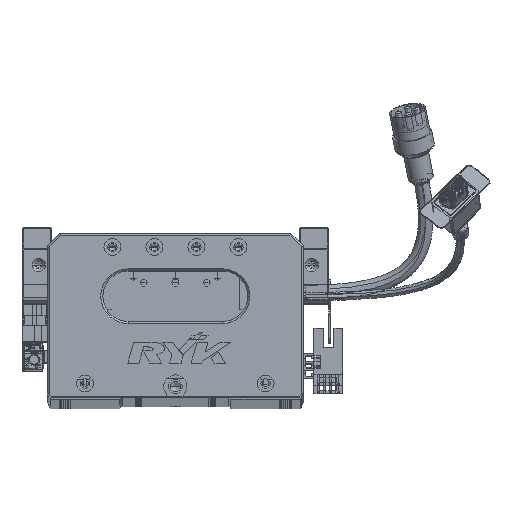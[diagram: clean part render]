
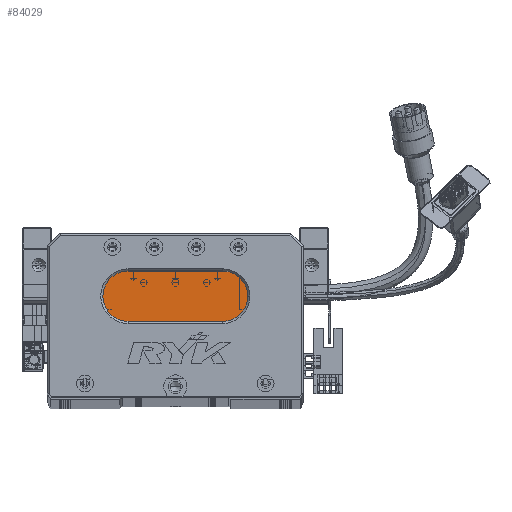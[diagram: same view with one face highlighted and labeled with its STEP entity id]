
A CAD part, top view. The second image highlights one B-rep face of the part: STEP entity #84029.
In plain terms, the highlighted planar face has unit normal (0, 0, 1) as drawn and (0, 0, -1) by its records, which use the part's own axes.
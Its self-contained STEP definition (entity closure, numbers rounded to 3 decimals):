
#5554 = DIRECTION ( 'NONE',  ( 0., 0., -1. ) ) ;
#9522 = CIRCLE ( 'NONE', #95653, 12. ) ;
#12624 = FACE_OUTER_BOUND ( 'NONE', #100102, .T. ) ;
#13292 = VERTEX_POINT ( 'NONE', #101647 ) ;
#13939 = CARTESIAN_POINT ( 'NONE',  ( 83.5, 60., 13. ) ) ;
#17297 = EDGE_CURVE ( 'NONE', #74197, #92590, #9522, .T. ) ;
#19933 = EDGE_CURVE ( 'NONE', #111495, #74197, #77395, .T. ) ;
#21264 = AXIS2_PLACEMENT_3D ( 'NONE', #80389, #5554, #23537 ) ;
#22996 = VERTEX_POINT ( 'NONE', #66857 ) ;
#23537 = DIRECTION ( 'NONE',  ( -1., 0., 0. ) ) ;
#23882 = AXIS2_PLACEMENT_3D ( 'NONE', #116215, #87593, #31541 ) ;
#24248 = ORIENTED_EDGE ( 'NONE', *, *, #19933, .T. ) ;
#24488 = CIRCLE ( 'NONE', #21264, 12. ) ;
#31541 = DIRECTION ( 'NONE',  ( -1., 0., 0. ) ) ;
#34505 = ORIENTED_EDGE ( 'NONE', *, *, #17297, .T. ) ;
#41370 = PLANE ( 'NONE',  #23882 ) ;
#44886 = CARTESIAN_POINT ( 'NONE',  ( 83.5, 36., 13. ) ) ;
#46243 = CARTESIAN_POINT ( 'NONE',  ( 38.5, 60., 13. ) ) ;
#52462 = VECTOR ( 'NONE', #98191, 1000. ) ;
#63863 = CARTESIAN_POINT ( 'NONE',  ( 83.5, 48., 13. ) ) ;
#65376 = ORIENTED_EDGE ( 'NONE', *, *, #120005, .T. ) ;
#66857 = CARTESIAN_POINT ( 'NONE',  ( 26.5, 48., 13. ) ) ;
#67819 = LINE ( 'NONE', #93350, #114577 ) ;
#72150 = DIRECTION ( 'NONE',  ( 0., 0., -1. ) ) ;
#73796 = DIRECTION ( 'NONE',  ( -1., 0., 0. ) ) ;
#74197 = VERTEX_POINT ( 'NONE', #77536 ) ;
#77395 = LINE ( 'NONE', #13939, #52462 ) ;
#77536 = CARTESIAN_POINT ( 'NONE',  ( 83.5, 60., 13. ) ) ;
#80389 = CARTESIAN_POINT ( 'NONE',  ( 38.5, 48., 13. ) ) ;
#83989 = ORIENTED_EDGE ( 'NONE', *, *, #120334, .T. ) ;
#84029 = ADVANCED_FACE ( 'NONE', ( #12624 ), #41370, .T. ) ;
#87593 = DIRECTION ( 'NONE',  ( 0., 0., -1. ) ) ;
#89756 = ORIENTED_EDGE ( 'NONE', *, *, #92896, .T. ) ;
#92590 = VERTEX_POINT ( 'NONE', #44886 ) ;
#92896 = EDGE_CURVE ( 'NONE', #13292, #22996, #96372, .T. ) ;
#93350 = CARTESIAN_POINT ( 'NONE',  ( 83.5, 36., 13. ) ) ;
#94296 = AXIS2_PLACEMENT_3D ( 'NONE', #105804, #106617, #97582 ) ;
#95653 = AXIS2_PLACEMENT_3D ( 'NONE', #63863, #72150, #119524 ) ;
#96372 = CIRCLE ( 'NONE', #94296, 12. ) ;
#97582 = DIRECTION ( 'NONE',  ( -1., 0., 0. ) ) ;
#98191 = DIRECTION ( 'NONE',  ( 1., 0., 0. ) ) ;
#100102 = EDGE_LOOP ( 'NONE', ( #34505, #83989, #89756, #65376, #24248 ) ) ;
#101647 = CARTESIAN_POINT ( 'NONE',  ( 38.5, 36., 13. ) ) ;
#105804 = CARTESIAN_POINT ( 'NONE',  ( 38.5, 48., 13. ) ) ;
#106617 = DIRECTION ( 'NONE',  ( 0., 0., -1. ) ) ;
#111495 = VERTEX_POINT ( 'NONE', #46243 ) ;
#114577 = VECTOR ( 'NONE', #73796, 1000. ) ;
#116215 = CARTESIAN_POINT ( 'NONE',  ( 83.5, 48., 13. ) ) ;
#119524 = DIRECTION ( 'NONE',  ( -1., 0., 0. ) ) ;
#120005 = EDGE_CURVE ( 'NONE', #22996, #111495, #24488, .T. ) ;
#120334 = EDGE_CURVE ( 'NONE', #92590, #13292, #67819, .T. ) ;
